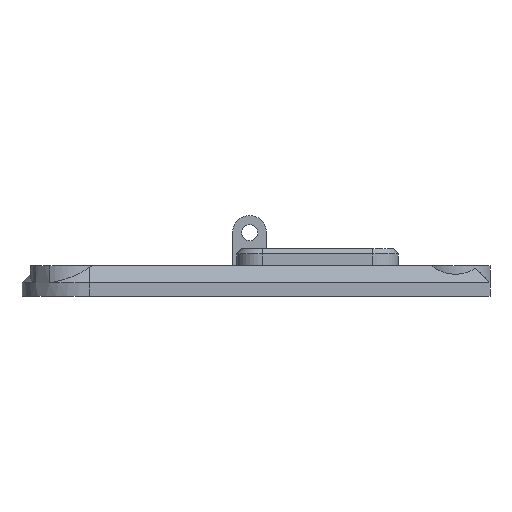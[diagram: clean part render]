
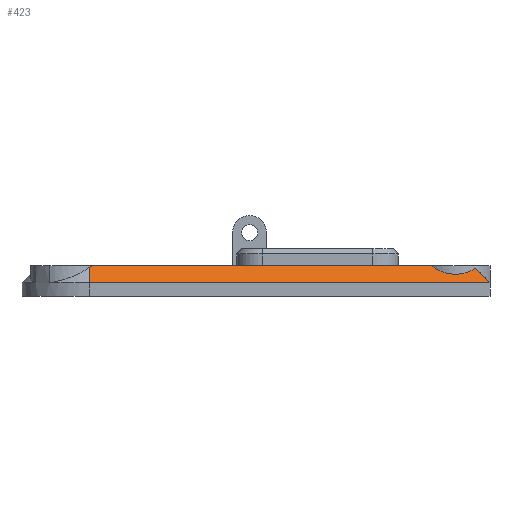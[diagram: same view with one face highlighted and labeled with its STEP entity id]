
A CAD part, left-side view. The second image highlights one B-rep face of the part: STEP entity #423.
In plain terms, the highlighted planar face has unit normal (-0.707, 0, 0.707).
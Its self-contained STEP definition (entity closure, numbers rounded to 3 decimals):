
#24 = VERTEX_POINT('',#25);
#25 = CARTESIAN_POINT('',(0.,83.9,22.8));
#32 = PLANE('',#33);
#33 = AXIS2_PLACEMENT_3D('',#34,#35,#36);
#34 = CARTESIAN_POINT('',(0.,83.4,21.2));
#35 = DIRECTION('',(1.,0.,-0.));
#36 = DIRECTION('',(0.,-1.,0.));
#83 = VERTEX_POINT('',#84);
#84 = CARTESIAN_POINT('',(0.,131.,22.8));
#110 = EDGE_CURVE('',#83,#24,#111,.T.);
#111 = SURFACE_CURVE('',#112,(#116,#123),.PCURVE_S1.);
#112 = LINE('',#113,#114);
#113 = CARTESIAN_POINT('',(0.,131.,22.8));
#114 = VECTOR('',#115,1.);
#115 = DIRECTION('',(0.,-1.,0.));
#116 = PCURVE('',#32,#117);
#117 = DEFINITIONAL_REPRESENTATION('',(#118),#122);
#118 = LINE('',#119,#120);
#119 = CARTESIAN_POINT('',(-47.6,-1.6));
#120 = VECTOR('',#121,1.);
#121 = DIRECTION('',(1.,0.));
#122 = ( GEOMETRIC_REPRESENTATION_CONTEXT(2) 
PARAMETRIC_REPRESENTATION_CONTEXT() REPRESENTATION_CONTEXT('2D SPACE',''
  ) );
#123 = PCURVE('',#124,#129);
#124 = PLANE('',#125);
#125 = AXIS2_PLACEMENT_3D('',#126,#127,#128);
#126 = CARTESIAN_POINT('',(1.,131.,23.8));
#127 = DIRECTION('',(0.707,0.,-0.707));
#128 = DIRECTION('',(-0.,1.,-0.));
#129 = DEFINITIONAL_REPRESENTATION('',(#130),#134);
#130 = LINE('',#131,#132);
#131 = CARTESIAN_POINT('',(-0.,-1.414));
#132 = VECTOR('',#133,1.);
#133 = DIRECTION('',(-1.,0.));
#134 = ( GEOMETRIC_REPRESENTATION_CONTEXT(2) 
PARAMETRIC_REPRESENTATION_CONTEXT() REPRESENTATION_CONTEXT('2D SPACE',''
  ) );
#156 = PLANE('',#157);
#157 = AXIS2_PLACEMENT_3D('',#158,#159,#160);
#158 = CARTESIAN_POINT('',(46.,84.9,23.8));
#159 = DIRECTION('',(0.,0.707,-0.707));
#160 = DIRECTION('',(-1.,0.,0.));
#183 = CYLINDRICAL_SURFACE('',#184,4.4);
#184 = AXIS2_PLACEMENT_3D('',#185,#186,#187);
#185 = CARTESIAN_POINT('',(5.4,88.,21.2));
#186 = DIRECTION('',(-0.,-0.,-1.));
#187 = DIRECTION('',(1.,0.,0.));
#209 = PLANE('',#210);
#210 = AXIS2_PLACEMENT_3D('',#211,#212,#213);
#211 = CARTESIAN_POINT('',(23.,41.7,24.8));
#212 = DIRECTION('',(0.,0.,1.));
#213 = DIRECTION('',(1.,0.,-0.));
#423 = ADVANCED_FACE('',(#424),#124,.F.);
#424 = FACE_BOUND('',#425,.T.);
#425 = EDGE_LOOP('',(#426,#452,#453,#476,#506,#529));
#426 = ORIENTED_EDGE('',*,*,#427,.F.);
#427 = EDGE_CURVE('',#83,#428,#430,.T.);
#428 = VERTEX_POINT('',#429);
#429 = CARTESIAN_POINT('',(1.85,131.,24.65));
#430 = SURFACE_CURVE('',#431,(#435,#441),.PCURVE_S1.);
#431 = LINE('',#432,#433);
#432 = CARTESIAN_POINT('',(0.,131.,22.8));
#433 = VECTOR('',#434,1.);
#434 = DIRECTION('',(0.707,0.,0.707));
#435 = PCURVE('',#124,#436);
#436 = DEFINITIONAL_REPRESENTATION('',(#437),#440);
#437 = B_SPLINE_CURVE_WITH_KNOTS('',1,(#438,#439),.UNSPECIFIED.,.F.,.F.,
  (2,2),(0.,2.828),.PIECEWISE_BEZIER_KNOTS.);
#438 = CARTESIAN_POINT('',(0.,-1.414));
#439 = CARTESIAN_POINT('',(0.,1.414));
#440 = ( GEOMETRIC_REPRESENTATION_CONTEXT(2) 
PARAMETRIC_REPRESENTATION_CONTEXT() REPRESENTATION_CONTEXT('2D SPACE',''
  ) );
#441 = PCURVE('',#442,#447);
#442 = CONICAL_SURFACE('',#443,8.,0.785);
#443 = AXIS2_PLACEMENT_3D('',#444,#445,#446);
#444 = CARTESIAN_POINT('',(8.,131.,22.8));
#445 = DIRECTION('',(-0.,-0.,-1.));
#446 = DIRECTION('',(0.,1.,-0.));
#447 = DEFINITIONAL_REPRESENTATION('',(#448),#451);
#448 = B_SPLINE_CURVE_WITH_KNOTS('',1,(#449,#450),.UNSPECIFIED.,.F.,.F.,
  (2,2),(0.,2.828),.PIECEWISE_BEZIER_KNOTS.);
#449 = CARTESIAN_POINT('',(-1.571,0.));
#450 = CARTESIAN_POINT('',(-1.571,-2.));
#451 = ( GEOMETRIC_REPRESENTATION_CONTEXT(2) 
PARAMETRIC_REPRESENTATION_CONTEXT() REPRESENTATION_CONTEXT('2D SPACE',''
  ) );
#452 = ORIENTED_EDGE('',*,*,#110,.T.);
#453 = ORIENTED_EDGE('',*,*,#454,.T.);
#454 = EDGE_CURVE('',#24,#455,#457,.T.);
#455 = VERTEX_POINT('',#456);
#456 = CARTESIAN_POINT('',(1.707,85.607,
    24.507));
#457 = SURFACE_CURVE('',#458,(#462,#469),.PCURVE_S1.);
#458 = LINE('',#459,#460);
#459 = CARTESIAN_POINT('',(16.183,100.083,
    38.983));
#460 = VECTOR('',#461,1.);
#461 = DIRECTION('',(0.577,0.577,0.577));
#462 = PCURVE('',#124,#463);
#463 = DEFINITIONAL_REPRESENTATION('',(#464),#468);
#464 = LINE('',#465,#466);
#465 = CARTESIAN_POINT('',(-30.917,21.472));
#466 = VECTOR('',#467,1.);
#467 = DIRECTION('',(0.577,0.816));
#468 = ( GEOMETRIC_REPRESENTATION_CONTEXT(2) 
PARAMETRIC_REPRESENTATION_CONTEXT() REPRESENTATION_CONTEXT('2D SPACE',''
  ) );
#469 = PCURVE('',#156,#470);
#470 = DEFINITIONAL_REPRESENTATION('',(#471),#475);
#471 = LINE('',#472,#473);
#472 = CARTESIAN_POINT('',(29.817,21.472));
#473 = VECTOR('',#474,1.);
#474 = DIRECTION('',(-0.577,0.816));
#475 = ( GEOMETRIC_REPRESENTATION_CONTEXT(2) 
PARAMETRIC_REPRESENTATION_CONTEXT() REPRESENTATION_CONTEXT('2D SPACE',''
  ) );
#476 = ORIENTED_EDGE('',*,*,#477,.T.);
#477 = EDGE_CURVE('',#455,#478,#480,.T.);
#478 = VERTEX_POINT('',#479);
#479 = CARTESIAN_POINT('',(2.,90.793,24.8));
#480 = SURFACE_CURVE('',#481,(#486,#493),.PCURVE_S1.);
#481 = ELLIPSE('',#482,6.223,4.4);
#482 = AXIS2_PLACEMENT_3D('',#483,#484,#485);
#483 = CARTESIAN_POINT('',(5.4,88.,28.2));
#484 = DIRECTION('',(0.707,0.,-0.707));
#485 = DIRECTION('',(-0.707,0.,-0.707));
#486 = PCURVE('',#124,#487);
#487 = DEFINITIONAL_REPRESENTATION('',(#488),#492);
#488 = ELLIPSE('',#489,6.223,4.4);
#489 = AXIS2_PLACEMENT_2D('',#490,#491);
#490 = CARTESIAN_POINT('',(-43.,6.223));
#491 = DIRECTION('',(-0.,-1.));
#492 = ( GEOMETRIC_REPRESENTATION_CONTEXT(2) 
PARAMETRIC_REPRESENTATION_CONTEXT() REPRESENTATION_CONTEXT('2D SPACE',''
  ) );
#493 = PCURVE('',#183,#494);
#494 = DEFINITIONAL_REPRESENTATION('',(#495),#505);
#495 = B_SPLINE_CURVE_WITH_KNOTS('',8,(#496,#497,#498,#499,#500,#501,
    #502,#503,#504),.UNSPECIFIED.,.F.,.F.,(9,9),(5.596,
    6.971),.PIECEWISE_BEZIER_KNOTS.);
#496 = CARTESIAN_POINT('',(-10.112,-3.6));
#497 = CARTESIAN_POINT('',(-9.941,-3.12));
#498 = CARTESIAN_POINT('',(-9.769,-2.755));
#499 = CARTESIAN_POINT('',(-9.597,-2.526));
#500 = CARTESIAN_POINT('',(-9.425,-2.448));
#501 = CARTESIAN_POINT('',(-9.253,-2.526));
#502 = CARTESIAN_POINT('',(-9.081,-2.755));
#503 = CARTESIAN_POINT('',(-8.909,-3.12));
#504 = CARTESIAN_POINT('',(-8.737,-3.6));
#505 = ( GEOMETRIC_REPRESENTATION_CONTEXT(2) 
PARAMETRIC_REPRESENTATION_CONTEXT() REPRESENTATION_CONTEXT('2D SPACE',''
  ) );
#506 = ORIENTED_EDGE('',*,*,#507,.F.);
#507 = EDGE_CURVE('',#508,#478,#510,.T.);
#508 = VERTEX_POINT('',#509);
#509 = CARTESIAN_POINT('',(2.,130.807,24.8));
#510 = SURFACE_CURVE('',#511,(#515,#522),.PCURVE_S1.);
#511 = LINE('',#512,#513);
#512 = CARTESIAN_POINT('',(2.,131.,24.8));
#513 = VECTOR('',#514,1.);
#514 = DIRECTION('',(0.,-1.,0.));
#515 = PCURVE('',#124,#516);
#516 = DEFINITIONAL_REPRESENTATION('',(#517),#521);
#517 = LINE('',#518,#519);
#518 = CARTESIAN_POINT('',(-0.,1.414));
#519 = VECTOR('',#520,1.);
#520 = DIRECTION('',(-1.,0.));
#521 = ( GEOMETRIC_REPRESENTATION_CONTEXT(2) 
PARAMETRIC_REPRESENTATION_CONTEXT() REPRESENTATION_CONTEXT('2D SPACE',''
  ) );
#522 = PCURVE('',#209,#523);
#523 = DEFINITIONAL_REPRESENTATION('',(#524),#528);
#524 = LINE('',#525,#526);
#525 = CARTESIAN_POINT('',(-21.,89.3));
#526 = VECTOR('',#527,1.);
#527 = DIRECTION('',(0.,-1.));
#528 = ( GEOMETRIC_REPRESENTATION_CONTEXT(2) 
PARAMETRIC_REPRESENTATION_CONTEXT() REPRESENTATION_CONTEXT('2D SPACE',''
  ) );
#529 = ORIENTED_EDGE('',*,*,#530,.T.);
#530 = EDGE_CURVE('',#508,#428,#531,.T.);
#531 = SURFACE_CURVE('',#532,(#537,#544),.PCURVE_S1.);
#532 = ELLIPSE('',#533,6.223,4.4);
#533 = AXIS2_PLACEMENT_3D('',#534,#535,#536);
#534 = CARTESIAN_POINT('',(5.4,133.6,28.2));
#535 = DIRECTION('',(0.707,0.,-0.707));
#536 = DIRECTION('',(-0.707,0.,-0.707));
#537 = PCURVE('',#124,#538);
#538 = DEFINITIONAL_REPRESENTATION('',(#539),#543);
#539 = ELLIPSE('',#540,6.223,4.4);
#540 = AXIS2_PLACEMENT_2D('',#541,#542);
#541 = CARTESIAN_POINT('',(2.6,6.223));
#542 = DIRECTION('',(-0.,-1.));
#543 = ( GEOMETRIC_REPRESENTATION_CONTEXT(2) 
PARAMETRIC_REPRESENTATION_CONTEXT() REPRESENTATION_CONTEXT('2D SPACE',''
  ) );
#544 = PCURVE('',#545,#550);
#545 = CYLINDRICAL_SURFACE('',#546,4.4);
#546 = AXIS2_PLACEMENT_3D('',#547,#548,#549);
#547 = CARTESIAN_POINT('',(5.4,133.6,21.2));
#548 = DIRECTION('',(-0.,-0.,-1.));
#549 = DIRECTION('',(1.,0.,0.));
#550 = DEFINITIONAL_REPRESENTATION('',(#551),#560);
#551 = B_SPLINE_CURVE_WITH_KNOTS('',7,(#552,#553,#554,#555,#556,#557,
    #558,#559),.UNSPECIFIED.,.F.,.F.,(8,8),(5.596,
    6.783),.PIECEWISE_BEZIER_KNOTS.);
#552 = CARTESIAN_POINT('',(-3.829,-3.6));
#553 = CARTESIAN_POINT('',(-3.66,-3.126));
#554 = CARTESIAN_POINT('',(-3.49,-2.766));
#555 = CARTESIAN_POINT('',(-3.32,-2.543));
#556 = CARTESIAN_POINT('',(-3.151,-2.471));
#557 = CARTESIAN_POINT('',(-2.981,-2.553));
#558 = CARTESIAN_POINT('',(-2.811,-2.781));
#559 = CARTESIAN_POINT('',(-2.641,-3.139));
#560 = ( GEOMETRIC_REPRESENTATION_CONTEXT(2) 
PARAMETRIC_REPRESENTATION_CONTEXT() REPRESENTATION_CONTEXT('2D SPACE',''
  ) );
